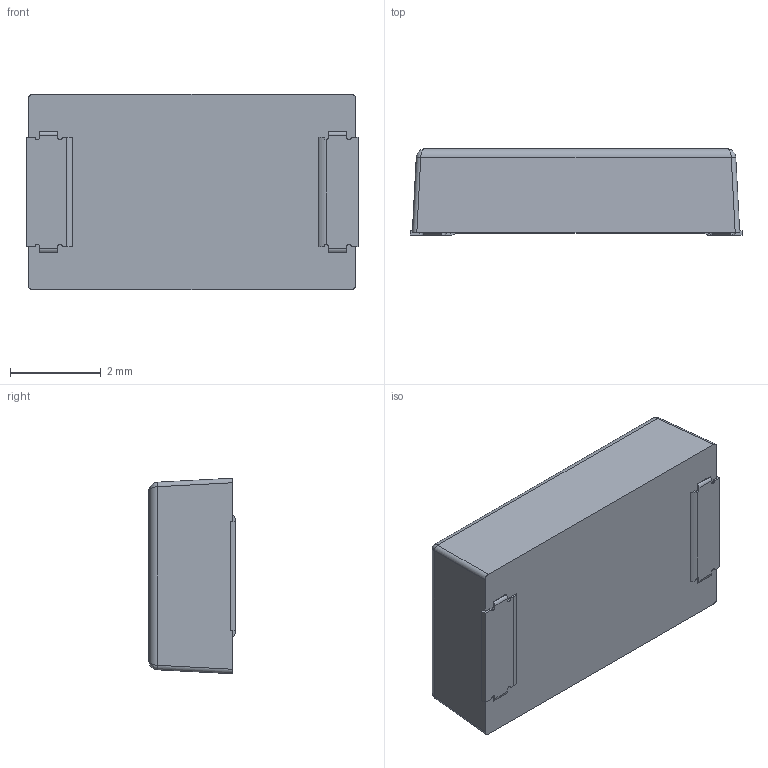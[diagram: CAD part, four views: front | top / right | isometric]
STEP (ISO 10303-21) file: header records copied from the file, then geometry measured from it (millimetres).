
FILE_DESCRIPTION (( 'STEP AP203' ), '1' );
FILE_NAME ('D2S（実測）_組立完成.STEP', '2023-11-17T03:53:16', ( '' ), ( '' ), 'SwSTEP 2.0', 'SolidWorks 2022', '' );
FILE_SCHEMA (( 'CONFIG_CONTROL_DESIGN' ));
Length unit declared in the file: millimetre
Products named in the file (3): D2S（実測）_組立完成; D2S（実測）_モールド; D2S（実測）_フレームR2
Assembly tree (2 placements, depth 2):
  D2S（実測）_組立完成
    D2S（実測）_フレームR2
    D2S（実測）_モールド
Bounding box: 7.3 x 1.9 x 4.3 mm (x, y, z)
Volume: 55.3 mm3; surface area: 110.1 mm2
Topology: 3 solids, 3 shells, 76 faces, 192 edges, 120 vertices
Faces by surface type: plane 40, cylinder 28, bspline 8
Entity records: 2702 total; most frequent: CARTESIAN_POINT 640, ORIENTED_EDGE 376, DIRECTION 358, EDGE_CURVE 188, VECTOR 124, LINE 124, VERTEX_POINT 120, AXIS2_PLACEMENT_3D 117
